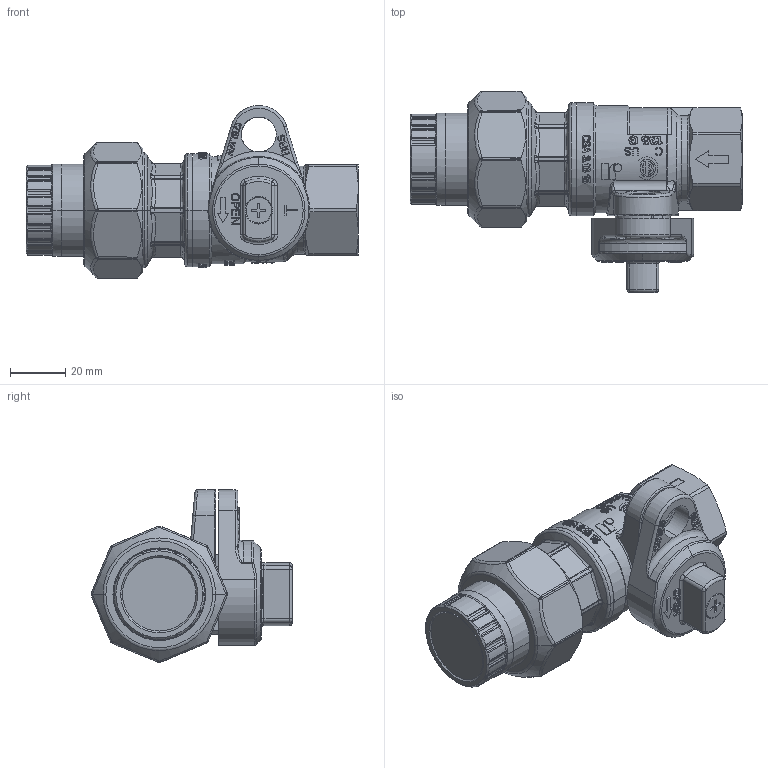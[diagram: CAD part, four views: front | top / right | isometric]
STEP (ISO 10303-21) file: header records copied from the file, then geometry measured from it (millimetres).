
FILE_DESCRIPTION((''),'2;1');
FILE_NAME('175LWD_3-4_ASM','2022-05-20T12:10:41',('Sergio.Dandrea'),(''),'CREO PARAMETRIC BY PTC INC, 2021164','CREO PARAMETRIC BY PTC INC, 2021164','');
FILE_SCHEMA(('CONFIG_CONTROL_DESIGN'));
Products named in the file (18): 93003; OR_2_62X26_65_NBR_AF0; 13169; OR_2X25_AF0; RIV_DIELET_3-4; 0175F_3-4F_O-RING_ASM; 08040; 92200; 92287_AF0; 92204; 87189; SEDE_PTFE_F20; 92288; OR_107_8_5X1_4_AF1; OR_107_8_5X1_4_AF0; 87164; 20073; 175LWD_3-4_ASM
Assembly tree (18 placements, depth 3):
  175LWD_3-4_ASM
    93003
    OR_2_62X26_65_NBR_AF0
    0175F_3-4F_O-RING_ASM
      13169
      OR_2X25_AF0
      RIV_DIELET_3-4
    08040
    92200
    92287_AF0
    92204
    87189
    SEDE_PTFE_F20  x2
    92288
    OR_107_8_5X1_4_AF1
    OR_107_8_5X1_4_AF0
    87164
    20073
Bounding box: 120.5 x 73.24 x 62.74 mm (x, y, z)
Volume: 114799.4 mm3; surface area: 76903.4 mm2
Topology: 17 solids, 26 shells, 2729 faces, 7263 edges, 4657 vertices
Faces by surface type: bspline 874, plane 586, extrusion 501, cylinder 368, torus 176, cone 162, revolution 34, sphere 28
Entity records: 123278 total; most frequent: CARTESIAN_POINT 63031, ORIENTED_EDGE 14430, DIRECTION 8758, EDGE_CURVE 7233, VERTEX_POINT 4641, B_SPLINE_CURVE_WITH_KNOTS 3554, VECTOR 3420, LINE 2919
